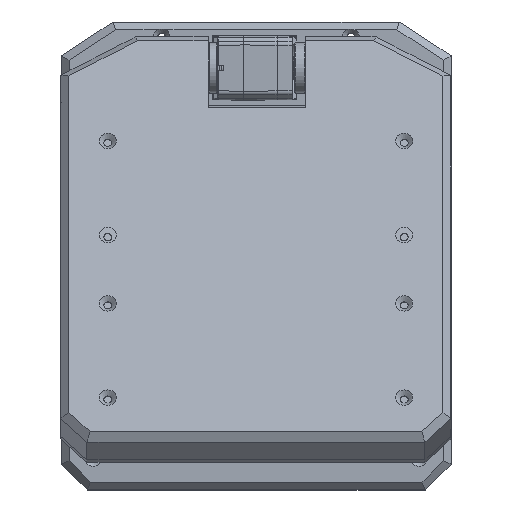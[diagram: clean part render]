
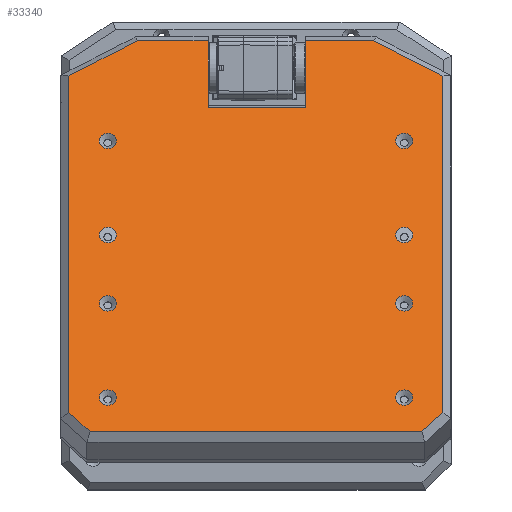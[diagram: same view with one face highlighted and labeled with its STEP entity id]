
A CAD part, top view. The second image highlights one B-rep face of the part: STEP entity #33340.
In plain terms, the highlighted planar face has unit normal (0, 0.422, 0.907) as drawn and (0, 0, 1) by its records, which use the part's own axes.
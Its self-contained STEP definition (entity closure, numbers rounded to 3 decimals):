
#1797=FACE_BOUND('',#6481,.T.);
#1798=FACE_BOUND('',#6482,.T.);
#1799=FACE_BOUND('',#6483,.T.);
#1800=FACE_BOUND('',#6484,.T.);
#1801=FACE_BOUND('',#6485,.T.);
#1802=FACE_BOUND('',#6486,.T.);
#1803=FACE_BOUND('',#6487,.T.);
#1804=FACE_BOUND('',#6488,.T.);
#2723=PLANE('',#36267);
#4490=FACE_OUTER_BOUND('',#6480,.T.);
#6480=EDGE_LOOP('',(#30949,#30950,#30951,#30952,#30953,#30954,#30955,#30956,
#30957,#30958,#30959,#30960));
#6481=EDGE_LOOP('',(#30961));
#6482=EDGE_LOOP('',(#30962));
#6483=EDGE_LOOP('',(#30963));
#6484=EDGE_LOOP('',(#30964));
#6485=EDGE_LOOP('',(#30965));
#6486=EDGE_LOOP('',(#30966));
#6487=EDGE_LOOP('',(#30967));
#6488=EDGE_LOOP('',(#30968));
#9309=LINE('',#74233,#12223);
#9315=LINE('',#74253,#12229);
#9327=LINE('',#74285,#12241);
#9328=LINE('',#74287,#12242);
#9329=LINE('',#74289,#12243);
#9330=LINE('',#74291,#12244);
#9331=LINE('',#74293,#12245);
#9332=LINE('',#74295,#12246);
#9333=LINE('',#74297,#12247);
#9334=LINE('',#74299,#12248);
#9335=LINE('',#74301,#12249);
#9336=LINE('',#74302,#12250);
#12223=VECTOR('',#44553,10.);
#12229=VECTOR('',#44571,10.);
#12241=VECTOR('',#44601,10.);
#12242=VECTOR('',#44602,10.);
#12243=VECTOR('',#44603,10.);
#12244=VECTOR('',#44604,10.);
#12245=VECTOR('',#44605,10.);
#12246=VECTOR('',#44606,10.);
#12247=VECTOR('',#44607,10.);
#12248=VECTOR('',#44608,10.);
#12249=VECTOR('',#44609,10.);
#12250=VECTOR('',#44610,10.);
#13670=CIRCLE('',#36268,3.25);
#13671=CIRCLE('',#36269,3.25);
#13672=CIRCLE('',#36270,3.25);
#13673=CIRCLE('',#36271,3.25);
#13674=CIRCLE('',#36272,3.25);
#13675=CIRCLE('',#36273,3.25);
#13676=CIRCLE('',#36274,3.25);
#13677=CIRCLE('',#36275,3.25);
#16723=VERTEX_POINT('',#74230);
#16724=VERTEX_POINT('',#74232);
#16732=VERTEX_POINT('',#74252);
#16743=VERTEX_POINT('',#74284);
#16744=VERTEX_POINT('',#74286);
#16745=VERTEX_POINT('',#74288);
#16746=VERTEX_POINT('',#74290);
#16747=VERTEX_POINT('',#74292);
#16748=VERTEX_POINT('',#74294);
#16749=VERTEX_POINT('',#74296);
#16750=VERTEX_POINT('',#74298);
#16751=VERTEX_POINT('',#74300);
#16752=VERTEX_POINT('',#74303);
#16753=VERTEX_POINT('',#74305);
#16754=VERTEX_POINT('',#74307);
#16755=VERTEX_POINT('',#74309);
#16756=VERTEX_POINT('',#74311);
#16757=VERTEX_POINT('',#74313);
#16758=VERTEX_POINT('',#74315);
#16759=VERTEX_POINT('',#74317);
#21489=EDGE_CURVE('',#16723,#16724,#9309,.T.);
#21499=EDGE_CURVE('',#16724,#16732,#9315,.T.);
#21515=EDGE_CURVE('',#16732,#16743,#9327,.T.);
#21516=EDGE_CURVE('',#16744,#16723,#9328,.T.);
#21517=EDGE_CURVE('',#16745,#16744,#9329,.T.);
#21518=EDGE_CURVE('',#16746,#16745,#9330,.T.);
#21519=EDGE_CURVE('',#16747,#16746,#9331,.T.);
#21520=EDGE_CURVE('',#16748,#16747,#9332,.T.);
#21521=EDGE_CURVE('',#16749,#16748,#9333,.T.);
#21522=EDGE_CURVE('',#16750,#16749,#9334,.T.);
#21523=EDGE_CURVE('',#16751,#16750,#9335,.T.);
#21524=EDGE_CURVE('',#16743,#16751,#9336,.T.);
#21525=EDGE_CURVE('',#16752,#16752,#13670,.T.);
#21526=EDGE_CURVE('',#16753,#16753,#13671,.T.);
#21527=EDGE_CURVE('',#16754,#16754,#13672,.T.);
#21528=EDGE_CURVE('',#16755,#16755,#13673,.T.);
#21529=EDGE_CURVE('',#16756,#16756,#13674,.T.);
#21530=EDGE_CURVE('',#16757,#16757,#13675,.T.);
#21531=EDGE_CURVE('',#16758,#16758,#13676,.T.);
#21532=EDGE_CURVE('',#16759,#16759,#13677,.T.);
#30949=ORIENTED_EDGE('',*,*,#21515,.F.);
#30950=ORIENTED_EDGE('',*,*,#21499,.F.);
#30951=ORIENTED_EDGE('',*,*,#21489,.F.);
#30952=ORIENTED_EDGE('',*,*,#21516,.F.);
#30953=ORIENTED_EDGE('',*,*,#21517,.F.);
#30954=ORIENTED_EDGE('',*,*,#21518,.F.);
#30955=ORIENTED_EDGE('',*,*,#21519,.F.);
#30956=ORIENTED_EDGE('',*,*,#21520,.F.);
#30957=ORIENTED_EDGE('',*,*,#21521,.F.);
#30958=ORIENTED_EDGE('',*,*,#21522,.F.);
#30959=ORIENTED_EDGE('',*,*,#21523,.F.);
#30960=ORIENTED_EDGE('',*,*,#21524,.F.);
#30961=ORIENTED_EDGE('',*,*,#21525,.F.);
#30962=ORIENTED_EDGE('',*,*,#21526,.F.);
#30963=ORIENTED_EDGE('',*,*,#21527,.F.);
#30964=ORIENTED_EDGE('',*,*,#21528,.F.);
#30965=ORIENTED_EDGE('',*,*,#21529,.F.);
#30966=ORIENTED_EDGE('',*,*,#21530,.F.);
#30967=ORIENTED_EDGE('',*,*,#21531,.F.);
#30968=ORIENTED_EDGE('',*,*,#21532,.F.);
#33340=ADVANCED_FACE('',(#4490,#1797,#1798,#1799,#1800,#1801,#1802,#1803,
#1804),#2723,.T.);
#36267=AXIS2_PLACEMENT_3D('',#74283,#44599,#44600);
#36268=AXIS2_PLACEMENT_3D('',#74304,#44611,#44612);
#36269=AXIS2_PLACEMENT_3D('',#74306,#44613,#44614);
#36270=AXIS2_PLACEMENT_3D('',#74308,#44615,#44616);
#36271=AXIS2_PLACEMENT_3D('',#74310,#44617,#44618);
#36272=AXIS2_PLACEMENT_3D('',#74312,#44619,#44620);
#36273=AXIS2_PLACEMENT_3D('',#74314,#44621,#44622);
#36274=AXIS2_PLACEMENT_3D('',#74316,#44623,#44624);
#36275=AXIS2_PLACEMENT_3D('',#74318,#44625,#44626);
#44553=DIRECTION('',(0.,-1.,0.));
#44571=DIRECTION('',(1.,0.,0.));
#44599=DIRECTION('center_axis',(0.,0.,1.));
#44600=DIRECTION('ref_axis',(1.,0.,0.));
#44601=DIRECTION('',(0.,1.,0.));
#44602=DIRECTION('',(1.,0.,0.));
#44603=DIRECTION('',(0.87,0.493,0.));
#44604=DIRECTION('',(0.,1.,0.));
#44605=DIRECTION('',(-0.708,0.706,0.));
#44606=DIRECTION('',(-1.,0.,0.));
#44607=DIRECTION('',(-0.706,-0.708,0.));
#44608=DIRECTION('',(0.,-1.,0.));
#44609=DIRECTION('',(0.871,-0.491,0.));
#44610=DIRECTION('',(1.,0.,0.));
#44611=DIRECTION('center_axis',(0.,0.,1.));
#44612=DIRECTION('ref_axis',(-1.,0.,0.));
#44613=DIRECTION('center_axis',(0.,0.,1.));
#44614=DIRECTION('ref_axis',(-1.,0.,0.));
#44615=DIRECTION('center_axis',(0.,0.,1.));
#44616=DIRECTION('ref_axis',(-1.,0.,0.));
#44617=DIRECTION('center_axis',(0.,0.,1.));
#44618=DIRECTION('ref_axis',(-1.,0.,0.));
#44619=DIRECTION('center_axis',(0.,0.,1.));
#44620=DIRECTION('ref_axis',(-1.,0.,0.));
#44621=DIRECTION('center_axis',(0.,0.,1.));
#44622=DIRECTION('ref_axis',(-1.,0.,0.));
#44623=DIRECTION('center_axis',(0.,0.,1.));
#44624=DIRECTION('ref_axis',(-1.,0.,0.));
#44625=DIRECTION('center_axis',(0.,0.,1.));
#44626=DIRECTION('ref_axis',(-1.,0.,0.));
#74230=CARTESIAN_POINT('',(-18.4,79.017,102.));
#74232=CARTESIAN_POINT('',(-18.4,50.623,102.));
#74233=CARTESIAN_POINT('',(-18.4,82.017,102.));
#74252=CARTESIAN_POINT('',(19.161,50.623,102.));
#74253=CARTESIAN_POINT('',(-10.239,50.623,102.));
#74283=CARTESIAN_POINT('Origin',(-0.077,-3.992,
102.));
#74284=CARTESIAN_POINT('',(19.161,79.017,102.));
#74285=CARTESIAN_POINT('',(19.161,52.623,102.));
#74286=CARTESIAN_POINT('',(-45.61,79.017,102.));
#74287=CARTESIAN_POINT('',(-23.239,79.017,102.));
#74288=CARTESIAN_POINT('',(-72.077,64.039,102.));
#74289=CARTESIAN_POINT('',(-60.151,70.788,102.));
#74290=CARTESIAN_POINT('',(-72.077,-78.718,102.));
#74291=CARTESIAN_POINT('',(-72.077,-41.978,102.));
#74292=CARTESIAN_POINT('',(-63.773,-87.,102.));
#74293=CARTESIAN_POINT('',(-68.118,-82.667,102.));
#74294=CARTESIAN_POINT('',(63.742,-87.,102.));
#74295=CARTESIAN_POINT('',(32.455,-87.,102.));
#74296=CARTESIAN_POINT('',(71.923,-78.797,102.));
#74297=CARTESIAN_POINT('',(73.112,-77.604,102.));
#74298=CARTESIAN_POINT('',(71.923,64.036,102.));
#74299=CARTESIAN_POINT('',(71.923,30.898,102.));
#74300=CARTESIAN_POINT('',(45.373,79.017,102.));
#74301=CARTESIAN_POINT('',(45.556,78.914,102.));
#74302=CARTESIAN_POINT('',(10.042,79.017,102.));
#74303=CARTESIAN_POINT('',(60.25,36.5,102.));
#74304=CARTESIAN_POINT('Origin',(57.,36.5,102.));
#74305=CARTESIAN_POINT('',(60.25,-32.5,102.));
#74306=CARTESIAN_POINT('Origin',(57.,-32.5,102.));
#74307=CARTESIAN_POINT('',(-53.75,-72.5,102.));
#74308=CARTESIAN_POINT('Origin',(-57.,-72.5,102.));
#74309=CARTESIAN_POINT('',(-53.75,-3.5,102.));
#74310=CARTESIAN_POINT('Origin',(-57.,-3.5,102.));
#74311=CARTESIAN_POINT('',(-53.75,36.5,102.));
#74312=CARTESIAN_POINT('Origin',(-57.,36.5,102.));
#74313=CARTESIAN_POINT('',(-53.75,-32.5,102.));
#74314=CARTESIAN_POINT('Origin',(-57.,-32.5,102.));
#74315=CARTESIAN_POINT('',(60.25,-72.5,102.));
#74316=CARTESIAN_POINT('Origin',(57.,-72.5,102.));
#74317=CARTESIAN_POINT('',(60.25,-3.5,102.));
#74318=CARTESIAN_POINT('Origin',(57.,-3.5,102.));
